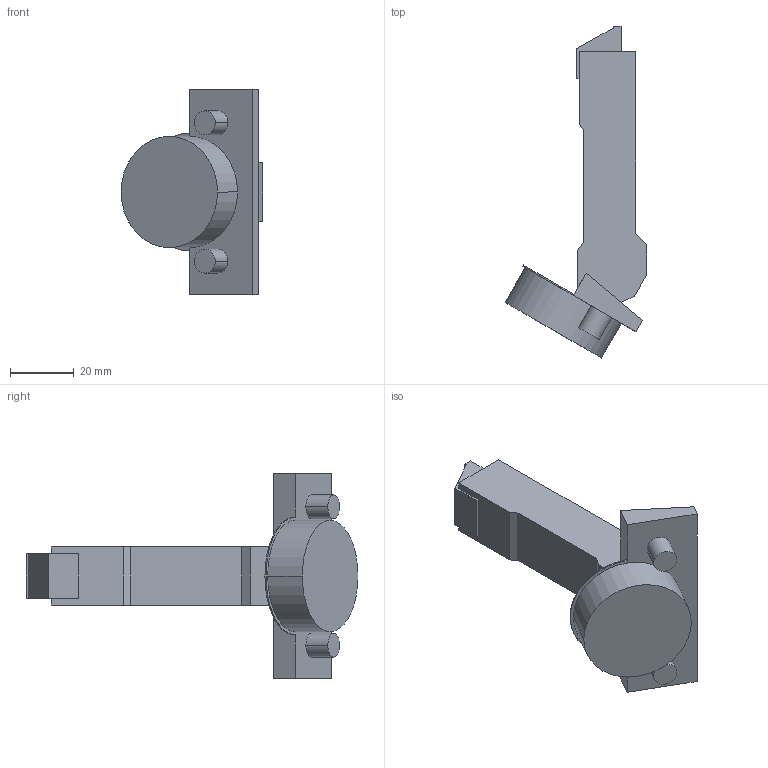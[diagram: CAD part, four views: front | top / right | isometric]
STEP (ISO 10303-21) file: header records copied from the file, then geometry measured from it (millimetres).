
FILE_DESCRIPTION (( 'STEP AP214' ), '1' );
FILE_NAME ('Scharnier T Impresso 110°_+30° GB_BB, aufliegend.step', '2010-12-13T10:20:50', ( 'grass' ), ( '' ), 'SwSTEP 2.0', 'SolidWorks 2010', '' );
FILE_SCHEMA (( 'AUTOMOTIVE_DESIGN' ));
Length unit declared in the file: millimetre
Products named in the file (1): Scharnier T Impresso 110°_+30° GB_BB, aufliegend
Bounding box: 44.59 x 104.36 x 64.5 mm (x, y, z)
Volume: 47040.3 mm3; surface area: 12915.7 mm2
Topology: 1 solids, 3 shells, 58 faces, 138 edges, 92 vertices
Faces by surface type: plane 41, cylinder 17
Entity records: 1706 total; most frequent: DIRECTION 290, CARTESIAN_POINT 289, ORIENTED_EDGE 276, EDGE_CURVE 138, VECTOR 104, LINE 104, AXIS2_PLACEMENT_3D 93, VERTEX_POINT 92
